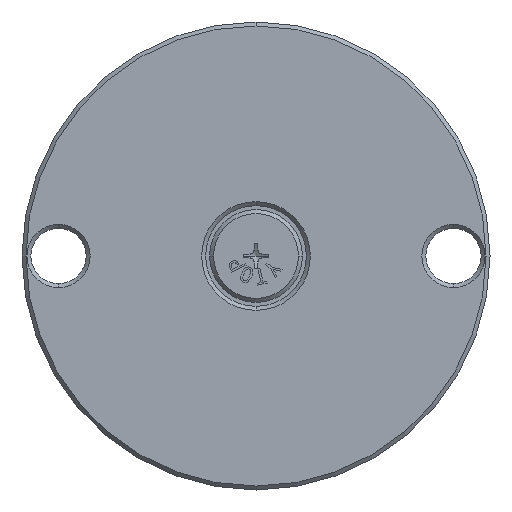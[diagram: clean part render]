
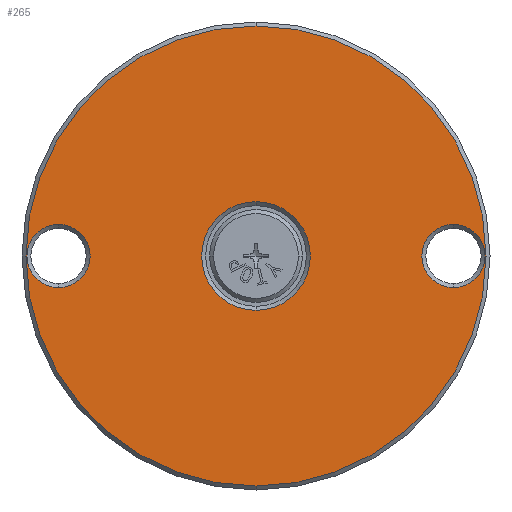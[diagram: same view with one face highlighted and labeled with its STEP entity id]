
A CAD part, front view. The second image highlights one B-rep face of the part: STEP entity #265.
In plain terms, the highlighted planar face has unit normal (0, -1, 0).
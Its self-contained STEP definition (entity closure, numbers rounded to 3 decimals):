
#41 = ORIENTED_EDGE ( 'NONE', *, *, #311, .T. ) ;
#117 = DIRECTION ( 'NONE',  ( 0., 0., 1. ) ) ;
#264 = CARTESIAN_POINT ( 'NONE',  ( -50., 0., 0. ) ) ;
#265 = ADVANCED_FACE ( 'NONE', ( #5160, #2556, #7319, #6395 ), #2926, .F. ) ;
#291 = VERTEX_POINT ( 'NONE', #1026 ) ;
#311 = EDGE_CURVE ( 'NONE', #3370, #2575, #7920, .T. ) ;
#332 = DIRECTION ( 'NONE',  ( 0., 1., 0. ) ) ;
#359 = DIRECTION ( 'NONE',  ( 0., -1., 0. ) ) ;
#735 = DIRECTION ( 'NONE',  ( 0., 0., 1. ) ) ;
#841 = AXIS2_PLACEMENT_3D ( 'NONE', #6331, #8384, #6389 ) ;
#892 = CARTESIAN_POINT ( 'NONE',  ( 0., 0., 0. ) ) ;
#905 = DIRECTION ( 'NONE',  ( 0., 1., 0. ) ) ;
#1026 = CARTESIAN_POINT ( 'NONE',  ( 0., 0., 13.75 ) ) ;
#1132 = CIRCLE ( 'NONE', #4773, 58.25 ) ;
#1345 = ORIENTED_EDGE ( 'NONE', *, *, #1523, .T. ) ;
#1523 = EDGE_CURVE ( 'NONE', #5785, #7762, #1132, .T. ) ;
#1580 = EDGE_LOOP ( 'NONE', ( #8008, #6933 ) ) ;
#1710 = DIRECTION ( 'NONE',  ( 0., 1., 0. ) ) ;
#1797 = CARTESIAN_POINT ( 'NONE',  ( 59.25, 0., 0. ) ) ;
#1986 = ORIENTED_EDGE ( 'NONE', *, *, #6096, .T. ) ;
#2204 = AXIS2_PLACEMENT_3D ( 'NONE', #7287, #6513, #735 ) ;
#2211 = CARTESIAN_POINT ( 'NONE',  ( 0., 0., 0. ) ) ;
#2315 = VERTEX_POINT ( 'NONE', #7363 ) ;
#2556 = FACE_BOUND ( 'NONE', #7667, .T. ) ;
#2575 = VERTEX_POINT ( 'NONE', #8257 ) ;
#2828 = CIRCLE ( 'NONE', #5619, 13.75 ) ;
#2914 = CARTESIAN_POINT ( 'NONE',  ( 0., 0., 58.25 ) ) ;
#2920 = AXIS2_PLACEMENT_3D ( 'NONE', #1797, #1710, #7475 ) ;
#2926 = PLANE ( 'NONE',  #2920 ) ;
#2945 = ORIENTED_EDGE ( 'NONE', *, *, #4602, .T. ) ;
#3093 = EDGE_CURVE ( 'NONE', #3296, #2315, #6261, .T. ) ;
#3146 = AXIS2_PLACEMENT_3D ( 'NONE', #4507, #5906, #117 ) ;
#3235 = CIRCLE ( 'NONE', #3495, 8. ) ;
#3296 = VERTEX_POINT ( 'NONE', #5196 ) ;
#3370 = VERTEX_POINT ( 'NONE', #5819 ) ;
#3388 = EDGE_CURVE ( 'NONE', #2575, #3370, #4861, .T. ) ;
#3440 = DIRECTION ( 'NONE',  ( 0., 0., 1. ) ) ;
#3495 = AXIS2_PLACEMENT_3D ( 'NONE', #264, #7346, #3440 ) ;
#3538 = DIRECTION ( 'NONE',  ( 0., 0., 1. ) ) ;
#3571 = AXIS2_PLACEMENT_3D ( 'NONE', #892, #332, #3538 ) ;
#3786 = ORIENTED_EDGE ( 'NONE', *, *, #3388, .T. ) ;
#3870 = ORIENTED_EDGE ( 'NONE', *, *, #3093, .T. ) ;
#4507 = CARTESIAN_POINT ( 'NONE',  ( 50., 0., 0. ) ) ;
#4602 = EDGE_CURVE ( 'NONE', #2315, #3296, #3235, .T. ) ;
#4739 = EDGE_LOOP ( 'NONE', ( #1986, #1345 ) ) ;
#4773 = AXIS2_PLACEMENT_3D ( 'NONE', #6380, #5733, #8289 ) ;
#4777 = CARTESIAN_POINT ( 'NONE',  ( 0., 0., -13.75 ) ) ;
#4861 = CIRCLE ( 'NONE', #3146, 8. ) ;
#5160 = FACE_BOUND ( 'NONE', #5319, .T. ) ;
#5196 = CARTESIAN_POINT ( 'NONE',  ( -50., 0., 8. ) ) ;
#5220 = CIRCLE ( 'NONE', #3571, 13.75 ) ;
#5319 = EDGE_LOOP ( 'NONE', ( #3786, #41 ) ) ;
#5514 = DIRECTION ( 'NONE',  ( 0., 0., 1. ) ) ;
#5619 = AXIS2_PLACEMENT_3D ( 'NONE', #6609, #905, #7998 ) ;
#5647 = CIRCLE ( 'NONE', #6352, 58.25 ) ;
#5733 = DIRECTION ( 'NONE',  ( 0., -1., 0. ) ) ;
#5785 = VERTEX_POINT ( 'NONE', #6357 ) ;
#5819 = CARTESIAN_POINT ( 'NONE',  ( 50., 0., 8. ) ) ;
#5906 = DIRECTION ( 'NONE',  ( 0., 1., 0. ) ) ;
#6016 = VERTEX_POINT ( 'NONE', #4777 ) ;
#6096 = EDGE_CURVE ( 'NONE', #7762, #5785, #5647, .T. ) ;
#6261 = CIRCLE ( 'NONE', #2204, 8. ) ;
#6331 = CARTESIAN_POINT ( 'NONE',  ( 50., 0., 0. ) ) ;
#6352 = AXIS2_PLACEMENT_3D ( 'NONE', #2211, #359, #5514 ) ;
#6357 = CARTESIAN_POINT ( 'NONE',  ( 0., 0., -58.25 ) ) ;
#6380 = CARTESIAN_POINT ( 'NONE',  ( 0., 0., 0. ) ) ;
#6389 = DIRECTION ( 'NONE',  ( 0., 0., 1. ) ) ;
#6395 = FACE_BOUND ( 'NONE', #1580, .T. ) ;
#6408 = EDGE_CURVE ( 'NONE', #6016, #291, #2828, .T. ) ;
#6513 = DIRECTION ( 'NONE',  ( 0., 1., 0. ) ) ;
#6609 = CARTESIAN_POINT ( 'NONE',  ( 0., 0., 0. ) ) ;
#6933 = ORIENTED_EDGE ( 'NONE', *, *, #7743, .T. ) ;
#7287 = CARTESIAN_POINT ( 'NONE',  ( -50., 0., 0. ) ) ;
#7319 = FACE_OUTER_BOUND ( 'NONE', #4739, .T. ) ;
#7346 = DIRECTION ( 'NONE',  ( 0., 1., 0. ) ) ;
#7363 = CARTESIAN_POINT ( 'NONE',  ( -50., 0., -8. ) ) ;
#7475 = DIRECTION ( 'NONE',  ( 0., 0., 1. ) ) ;
#7667 = EDGE_LOOP ( 'NONE', ( #2945, #3870 ) ) ;
#7743 = EDGE_CURVE ( 'NONE', #291, #6016, #5220, .T. ) ;
#7762 = VERTEX_POINT ( 'NONE', #2914 ) ;
#7920 = CIRCLE ( 'NONE', #841, 8. ) ;
#7998 = DIRECTION ( 'NONE',  ( 0., 0., 1. ) ) ;
#8008 = ORIENTED_EDGE ( 'NONE', *, *, #6408, .T. ) ;
#8257 = CARTESIAN_POINT ( 'NONE',  ( 50., 0., -8. ) ) ;
#8289 = DIRECTION ( 'NONE',  ( 0., 0., 1. ) ) ;
#8384 = DIRECTION ( 'NONE',  ( 0., 1., 0. ) ) ;
